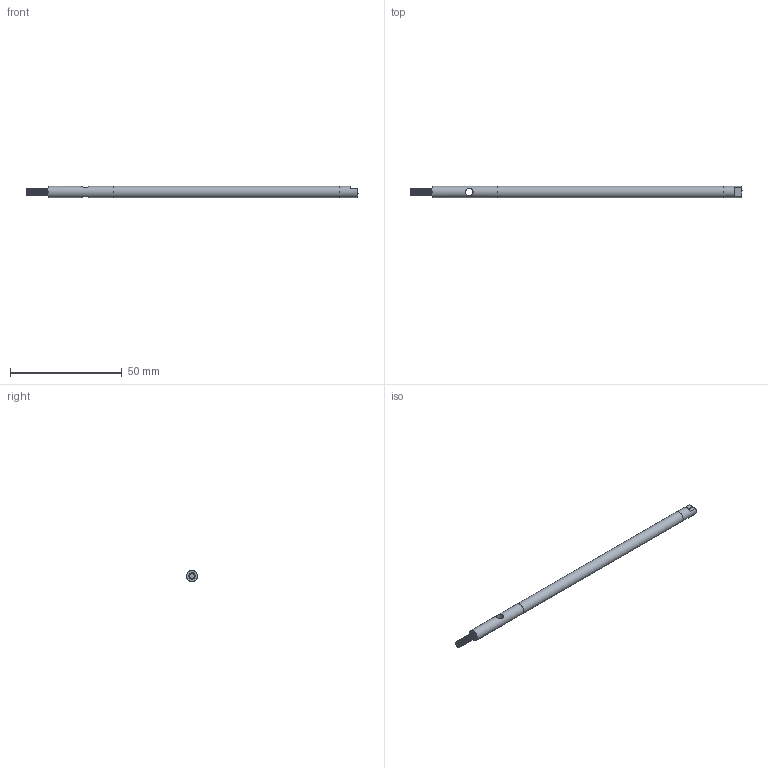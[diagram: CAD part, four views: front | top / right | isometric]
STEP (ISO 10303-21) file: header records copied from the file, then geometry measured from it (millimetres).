
FILE_DESCRIPTION(/* description */ (''),/* implementation_level */ '2;1');
FILE_NAME(/* name */ 'CWC-RV0025-P04_MagCoupling Axle.stp',/* time_stamp */ '2026-01-27T15:40:31+01:00',/* author */ (''),/* organization */ (''),/* preprocessor_version */ 'ST-DEVELOPER v18.1',/* originating_system */ 'SIEMENS PLM Software NX 1988',/* authorisation */ '');
FILE_SCHEMA (('AUTOMOTIVE_DESIGN { 1 0 10303 214 3 1 1 1 }'));
Length unit declared in the file: millimetre
Products named in the file (1): anto28E86766igco
Bounding box: 148.4 x 5 x 5 mm (x, y, z)
Surface area: 2420.1 mm2 (no closed solid volume)
Topology: 0 solids, 1 shells, 45 faces, 122 edges, 81 vertices
Faces by surface type: cylinder 27, plane 10, bspline 7, cone 1
Full cylindrical faces by diameter (mm): 2.8 x20, 3.4 x1, 4.996 x2, 5 x1
Entity records: 11915 total; most frequent: CARTESIAN_POINT 11393, ORIENTED_EDGE 100, DIRECTION 76, EDGE_CURVE 50, EDGE_LOOP 38, VERTEX_POINT 37, AXIS2_PLACEMENT_3D 33, B_SPLINE_CURVE_WITH_KNOTS 27
